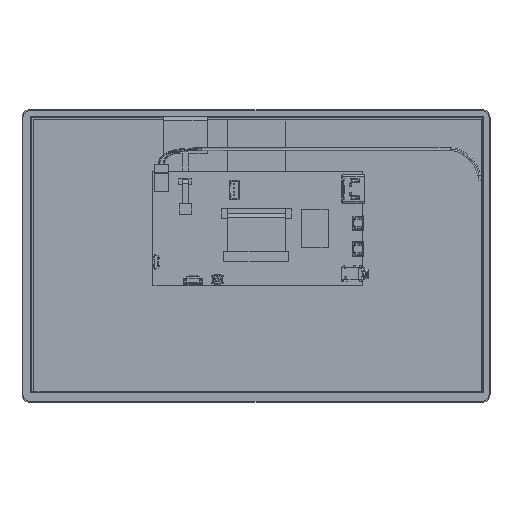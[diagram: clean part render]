
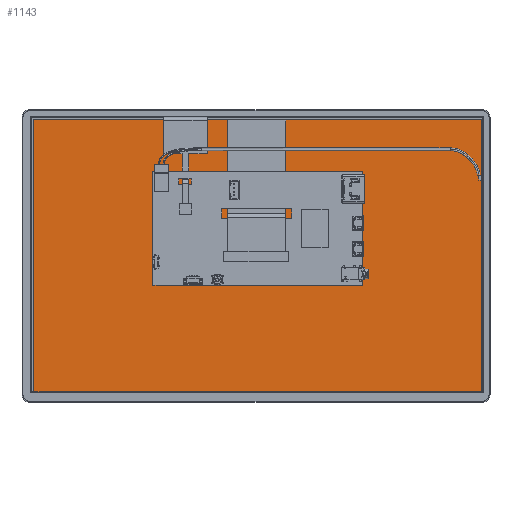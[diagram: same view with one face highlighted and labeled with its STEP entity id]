
A CAD part, front view. The second image highlights one B-rep face of the part: STEP entity #1143.
In plain terms, the highlighted planar face has unit normal (0, -1, 0).
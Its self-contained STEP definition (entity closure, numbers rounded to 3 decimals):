
#28=DIRECTION('',(-1.,0.,0.));
#29=VECTOR('',#28,1.5);
#30=CARTESIAN_POINT('',(118.4,0.,45.32));
#31=LINE('',#30,#29);
#32=DIRECTION('',(0.,0.,-1.));
#33=VECTOR('',#32,2.4);
#34=CARTESIAN_POINT('',(116.9,0.,45.32));
#35=LINE('',#34,#33);
#36=DIRECTION('',(-1.,0.,0.));
#37=VECTOR('',#36,1.5);
#38=CARTESIAN_POINT('',(118.4,0.,42.92));
#39=LINE('',#38,#37);
#40=DIRECTION('',(1.,0.,0.));
#41=VECTOR('',#40,30.5);
#42=CARTESIAN_POINT('',(-14.85,0.,74.47));
#43=LINE('',#42,#41);
#44=DIRECTION('',(0.,0.,1.));
#45=VECTOR('',#44,0.15);
#46=CARTESIAN_POINT('',(15.65,0.,74.47));
#47=LINE('',#46,#45);
#56=DIRECTION('',(0.,0.,1.));
#57=VECTOR('',#56,29.3);
#58=CARTESIAN_POINT('',(118.4,0.,45.32));
#59=LINE('',#58,#57);
#64=DIRECTION('',(0.,0.,1.));
#65=VECTOR('',#64,111.3);
#66=CARTESIAN_POINT('',(118.4,0.,-68.38));
#67=LINE('',#66,#65);
#100=DIRECTION('',(-1.,0.,0.));
#101=VECTOR('',#100,101.75);
#102=CARTESIAN_POINT('',(-14.85,0.,74.62));
#103=LINE('',#102,#101);
#108=DIRECTION('',(-1.,0.,0.));
#109=VECTOR('',#108,102.75);
#110=CARTESIAN_POINT('',(118.4,0.,74.62));
#111=LINE('',#110,#109);
#130=DIRECTION('',(0.,0.,1.));
#131=VECTOR('',#130,0.15);
#132=CARTESIAN_POINT('',(-14.85,0.,74.47));
#133=LINE('',#132,#131);
#748=DIRECTION('',(0.,0.,-1.));
#749=VECTOR('',#748,143.);
#750=CARTESIAN_POINT('',(-116.6,0.,74.62));
#751=LINE('',#750,#749);
#756=DIRECTION('',(1.,0.,0.));
#757=VECTOR('',#756,235.);
#758=CARTESIAN_POINT('',(-116.6,0.,-68.38));
#759=LINE('',#758,#757);
#876=CARTESIAN_POINT('',(-116.6,0.,-68.38));
#877=CARTESIAN_POINT('',(118.4,0.,-68.38));
#878=VERTEX_POINT('',#876);
#879=VERTEX_POINT('',#877);
#880=CARTESIAN_POINT('',(-116.6,0.,74.62));
#881=VERTEX_POINT('',#880);
#886=CARTESIAN_POINT('',(118.4,0.,74.62));
#887=VERTEX_POINT('',#886);
#928=CARTESIAN_POINT('',(118.4,0.,42.92));
#929=VERTEX_POINT('',#928);
#930=CARTESIAN_POINT('',(118.4,0.,45.32));
#931=VERTEX_POINT('',#930);
#936=CARTESIAN_POINT('',(116.9,0.,42.92));
#937=VERTEX_POINT('',#936);
#938=CARTESIAN_POINT('',(116.9,0.,45.32));
#939=VERTEX_POINT('',#938);
#1004=CARTESIAN_POINT('',(-14.85,0.,74.47));
#1005=CARTESIAN_POINT('',(-14.85,0.,74.62));
#1006=VERTEX_POINT('',#1004);
#1007=VERTEX_POINT('',#1005);
#1008=CARTESIAN_POINT('',(15.65,0.,74.47));
#1009=VERTEX_POINT('',#1008);
#1010=CARTESIAN_POINT('',(15.65,0.,74.62));
#1011=VERTEX_POINT('',#1010);
#1112=CARTESIAN_POINT('',(0.,0.,0.));
#1113=DIRECTION('',(0.,1.,0.));
#1114=DIRECTION('',(1.,0.,0.));
#1115=AXIS2_PLACEMENT_3D('',#1112,#1113,#1114);
#1116=PLANE('',#1115);
#1118=ORIENTED_EDGE('',*,*,#1117,.T.);
#1120=ORIENTED_EDGE('',*,*,#1119,.T.);
#1122=ORIENTED_EDGE('',*,*,#1121,.F.);
#1124=ORIENTED_EDGE('',*,*,#1123,.F.);
#1126=ORIENTED_EDGE('',*,*,#1125,.F.);
#1128=ORIENTED_EDGE('',*,*,#1127,.F.);
#1130=ORIENTED_EDGE('',*,*,#1129,.F.);
#1132=ORIENTED_EDGE('',*,*,#1131,.F.);
#1134=ORIENTED_EDGE('',*,*,#1133,.T.);
#1136=ORIENTED_EDGE('',*,*,#1135,.T.);
#1138=ORIENTED_EDGE('',*,*,#1137,.F.);
#1140=ORIENTED_EDGE('',*,*,#1139,.F.);
#1141=EDGE_LOOP('',(#1118,#1120,#1122,#1124,#1126,#1128,#1130,#1132,#1134,#1136,
#1138,#1140));
#1142=FACE_OUTER_BOUND('',#1141,.F.);
#1143=ADVANCED_FACE('',(#1142),#1116,.F.);
#1117=EDGE_CURVE('',#931,#939,#31,.T.);
#1119=EDGE_CURVE('',#939,#937,#35,.T.);
#1121=EDGE_CURVE('',#929,#937,#39,.T.);
#1123=EDGE_CURVE('',#879,#929,#67,.T.);
#1125=EDGE_CURVE('',#878,#879,#759,.T.);
#1127=EDGE_CURVE('',#881,#878,#751,.T.);
#1129=EDGE_CURVE('',#1007,#881,#103,.T.);
#1131=EDGE_CURVE('',#1006,#1007,#133,.T.);
#1133=EDGE_CURVE('',#1006,#1009,#43,.T.);
#1135=EDGE_CURVE('',#1009,#1011,#47,.T.);
#1137=EDGE_CURVE('',#887,#1011,#111,.T.);
#1139=EDGE_CURVE('',#931,#887,#59,.T.);
